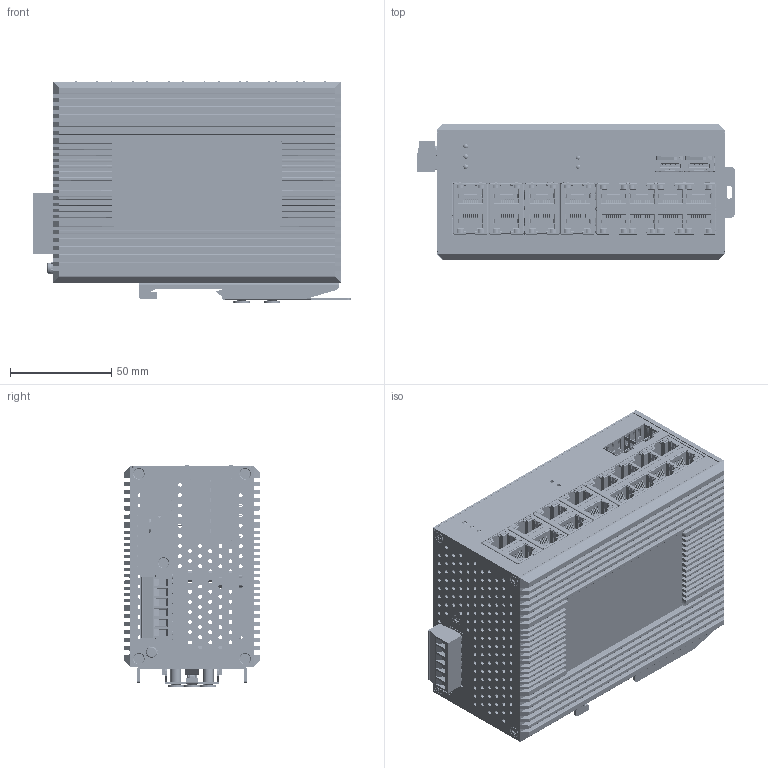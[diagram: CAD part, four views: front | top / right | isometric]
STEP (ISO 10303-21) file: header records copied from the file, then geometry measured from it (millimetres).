
FILE_DESCRIPTION(/* description */ ('STEP AP242','CAx-IF Rec.Pracs.---Representation and Presentation of Product Manufacturing Information (PMI)---4.0---2014-10-13','CAx-IF Rec.Pracs.---3D Tessellated Geometry---0.4---2014-09-14','2;1'),/* implementation_level */ '2;1');
FILE_NAME(/* name */ '681a577aecbaf01ef6c4a733',/* time_stamp */ '2025-05-06T18:40:22Z',/* author */ (''),/* organization */ (''),/* preprocessor_version */ 'ST-DEVELOPER v20',/* originating_system */ 'ONSHAPE BY PTC INC, 1.197',/* authorisation */ ' ');
FILE_SCHEMA (('AP242_MANAGED_MODEL_BASED_3D_ENGINEERING_MIM_LF { 1 0 10303 442 1 1 4 }'));
Products named in the file (465): SD-029 - Rev A - 16+2 Unmanaged Gigabit SFP Switch; ___J2-361877_1_6; RM1-C131-SW_ANY_1_3; ___J1-362704_1_11; RM1-P160_1_ANY_1_6; RM1-C210____T_P___A_ANY_1_2; _K_I__Q__ANY_1_1; ___J2-361877_1; THERMAL_PAD-28X28X2_2; RM1-C120_SHORT____S_1_ANY_1_5; RM1-C120_LONG____S-39_ANY_1; ___J1-360624_1; RM1-C120_SHORT____S-16_ANY_1; RM1-C131-SW_ANY_1_5; RM1-C120_LONG____S-34_ANY_1; RM1-C120_LONG____S-13_ANY_1; RM1-P160_ANY_1_10; RM1-C220____T_U_____P___A-3_ANY; ___J2-361877_1_2; RM1-C120_LONG____S_1_ANY_1_34; RM1-P160_ANY_1_5; ___J2-2961_1_3; M3-H20MM_SPACER_1; RM1-C120_LONG____S_1_ANY_1_30; RM1-C120_SHORT____S-34_ANY_1; RM1-C131-SW_ANY_1_4; RM1-P160_1_ANY_1_2; PG6-2004-SFP_BACK_PLATE_GASKET__3; ___J2-2961_1_4; RM1-C120_LONG____S-20_ANY_1; SCREW_M3X4_F_1_8; RM1-C120_SHORT____S_1_ANY_1_1; RM1-P160_ANY_1_15; RM1-C120_SHORT____S_1_ANY_1_30; EMSTBA_2_5-6-G-168220_2; RM1-C120_SHORT____S-2_ANY_1; PG6-2004-SFP_BACK_PLATE_4; RN2-S120_D_TYPE_RELAY-1G__ANY_1; ___J1-4212_1_4; RM1-C120_LONG____S_1_ANY_1_32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
Assembly tree (464 placements, depth 2):
  SD-029 - Rev A - 16+2 Unmanaged Gigabit SFP Switch
    ___J2-361877_1_6
    RM1-C131-SW_ANY_1_3
    ___J1-362704_1_11
    RM1-P160_1_ANY_1_6
    RM1-C210____T_P___A_ANY_1_2
    _K_I__Q__ANY_1_1
    ___J2-361877_1
    THERMAL_PAD-28X28X2_2
    RM1-C120_SHORT____S_1_ANY_1_5
    RM1-C120_LONG____S-39_ANY_1
    ___J1-360624_1
    RM1-C120_SHORT____S-16_ANY_1
    RM1-C131-SW_ANY_1_5
    RM1-C120_LONG____S-34_ANY_1
    RM1-C120_LONG____S-13_ANY_1
    RM1-P160_ANY_1_10
    RM1-C220____T_U_____P___A-3_ANY
    ___J2-361877_1_2
    RM1-C120_LONG____S_1_ANY_1_34
    RM1-P160_ANY_1_5
    ___J2-2961_1_3
    M3-H20MM_SPACER_1
    RM1-C120_LONG____S_1_ANY_1_30
    RM1-C120_SHORT____S-34_ANY_1
    RM1-C131-SW_ANY_1_4
    RM1-P160_1_ANY_1_2
    PG6-2004-SFP_BACK_PLATE_GASKET__3
    ___J2-2961_1_4
    RM1-C120_LONG____S-20_ANY_1
    SCREW_M3X4_F_1_8
    RM1-C120_SHORT____S_1_ANY_1_1
    RM1-P160_ANY_1_15
    RM1-C120_SHORT____S_1_ANY_1_30
    EMSTBA_2_5-6-G-168220_2
    RM1-C120_SHORT____S-2_ANY_1
    PG6-2004-SFP_BACK_PLATE_4
    RN2-S120_D_TYPE_RELAY-1G__ANY_1
    ___J1-4212_1_4
    RM1-C120_LONG____S_1_ANY_1_32
    4PCS_LED_ANY_1_4
    RM1-P110-LAST_1_ANY_1_2
    RM1-C220____T_U_____P___A_1_ANY
    RM1-P160_1_ANY_1_10
    RM1-C210____T_P___A_1_ANY_1
    RM1-C220____T_U_____P___A_1_ANY_3
    RU1-C130_RNX_1_ANY_1_4
    RM1-C120_LONG____S_1_ANY_1_25
    RU1-C130_RNX-6_ANY_1
    ___J3-362811_1
    RM1-C120_LONG____S_1_ANY_1_9
    SCREW_M3X4_F_1_15
    RM1-P160_ANY_1_8
    RM1-C120_SHORT____S_1_ANY_1_8
    RM1-P160_ANY_1_13
    RM1-C120_SHORT____S_1_ANY_1_12
    ___J1-362704_1_6
    SCREW_M3X4_F_1
    RU1-C120_RNX_ANY_1
    RM1-P110-LAST_1_ANY_1_1
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Bounding box: 156.65 x 67 x 109.04 mm (x, y, z)
Volume: 292190.9 mm3; surface area: 379861.6 mm2
Topology: 464 solids, 464 shells, 32986 faces, 92291 edges, 59836 vertices
Faces by surface type: plane 25371, cylinder 6109, torus 600, bspline 427, sphere 243, cone 236
Full cylindrical faces by diameter (mm): 0.5 x6, 0.6 x8, 0.609 x1, 1.4 x8, 1.9 x339, 2 x55, 2.3 x3, 2.5 x33, 2.8 x10, 2.9 x8, 3 x55, 3.15 x10, 3.5 x42, 3.7 x4, 3.783 x6, 3.8 x1, 4 x6, 4.4 x9, 5 x24, 5.2 x3, 5.5 x1, 8 x3, 10 x2, 18 x1
Entity records: 1079286 total; most frequent: CARTESIAN_POINT 215844, ORIENTED_EDGE 181492, DIRECTION 169030, EDGE_CURVE 90746, LINE 74890, VECTOR 74890, VERTEX_POINT 59345, AXIS2_PLACEMENT_3D 47070
